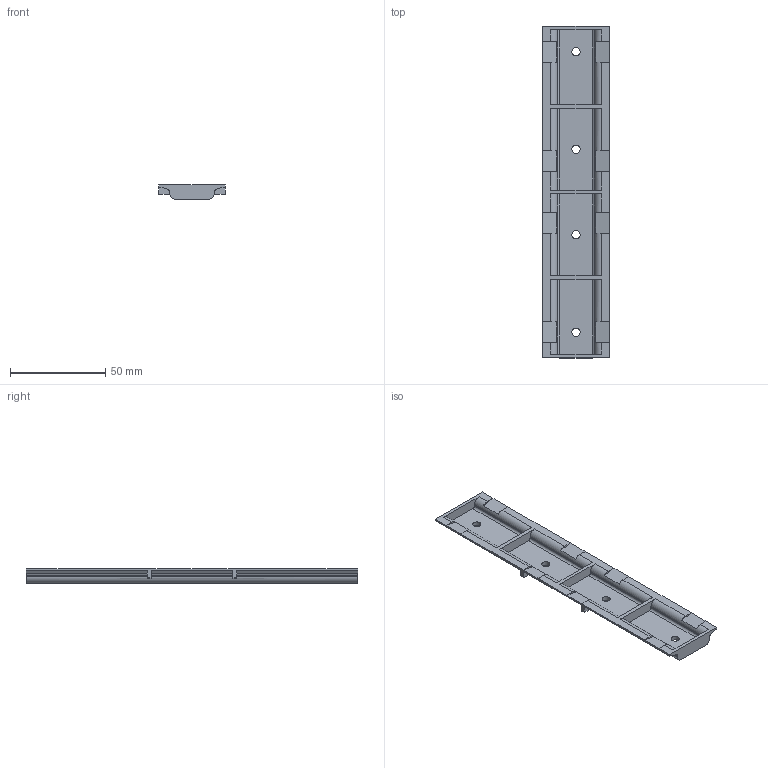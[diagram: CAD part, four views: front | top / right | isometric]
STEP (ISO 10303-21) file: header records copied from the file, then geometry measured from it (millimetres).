
FILE_DESCRIPTION( ( 'Unknown' ), '1' );
FILE_NAME( 'J:/DESBAKUP/3D DATA/MK-150PSL/ASSEMBLIES/3D OUTPUT & IMAGES/MK-150PSL.stp', 'Unknown', ( 'Unknown' ), ( 'Unknown' ), 'PSStep 14.0', 'Unknown', ' ' );
FILE_SCHEMA( ( 'AUTOMOTIVE_DESIGN { 1 0 10303 214 1 1 1 1 }' ) );
Length unit declared in the file: millimetre
Products named in the file (1): 1
Bounding box: 35 x 174.7 x 7.5 mm (x, y, z)
Volume: 15834.1 mm3; surface area: 16337 mm2
Topology: 1 solids, 1 shells, 110 faces, 310 edges, 202 vertices
Faces by surface type: plane 78, cylinder 32
Full cylindrical faces by diameter (mm): 4.3 x4
Entity records: 4424 total; most frequent: CARTESIAN_POINT 615, DIRECTION 614, ORIENTED_EDGE 608, EDGE_CURVE 304, LINE 216, VECTOR 216, VERTEX_POINT 200, AXIS2_PLACEMENT_3D 199
